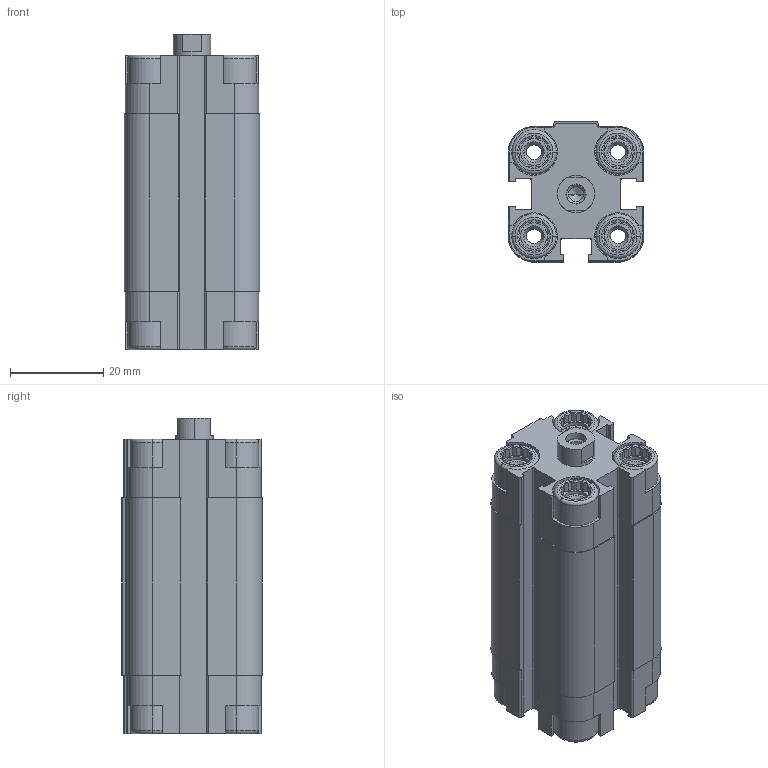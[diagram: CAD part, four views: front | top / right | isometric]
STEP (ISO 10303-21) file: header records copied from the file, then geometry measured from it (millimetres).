
FILE_DESCRIPTION (( 'STEP AP203' ), '1' );
FILE_NAME ('CDVU16-25F.STEP', '2020-03-30T14:53:41', ( '' ), ( '' ), 'SwSTEP 2.0', 'SolidWorks 2019', '' );
FILE_SCHEMA (( 'CONFIG_CONTROL_DESIGN' ));
Length unit declared in the file: millimetre
Products named in the file (1): CDVU16-25F
Bounding box: 29 x 30 x 67.5 mm (x, y, z)
Volume: 36010.3 mm3; surface area: 20396.2 mm2
Topology: 2 solids, 2 shells, 553 faces, 1474 edges, 959 vertices
Faces by surface type: plane 333, cylinder 158, cone 46, torus 16
Entity records: 17385 total; most frequent: CARTESIAN_POINT 3557, ORIENTED_EDGE 2936, DIRECTION 2776, EDGE_CURVE 1468, VERTEX_POINT 959, AXIS2_PLACEMENT_3D 946, VECTOR 884, LINE 884
